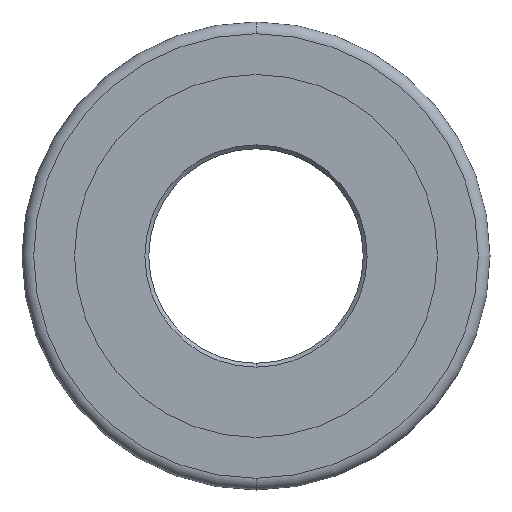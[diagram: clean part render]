
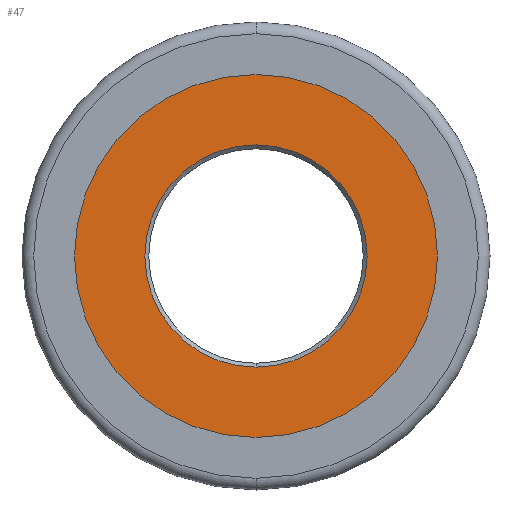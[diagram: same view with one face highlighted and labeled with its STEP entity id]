
A CAD part, front view. The second image highlights one B-rep face of the part: STEP entity #47.
In plain terms, the highlighted planar face has unit normal (0, -1, 0).
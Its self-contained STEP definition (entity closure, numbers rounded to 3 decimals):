
#9 = VERTEX_POINT ( 'NONE', #138 ) ;
#24 = CIRCLE ( 'NONE', #493, 28.5 ) ;
#26 = DIRECTION ( 'NONE',  ( 0., 0., 1. ) ) ;
#47 = ADVANCED_FACE ( 'NONE', ( #401, #212 ), #273, .F. ) ;
#48 = CARTESIAN_POINT ( 'NONE',  ( 0., -1.5, 0. ) ) ;
#64 = CARTESIAN_POINT ( 'NONE',  ( 0., -1.5, 46.529 ) ) ;
#67 = CARTESIAN_POINT ( 'NONE',  ( 0., -1.5, 0. ) ) ;
#72 = DIRECTION ( 'NONE',  ( 0., 1., 0. ) ) ;
#84 = CARTESIAN_POINT ( 'NONE',  ( 0., -1.5, -46.529 ) ) ;
#92 = VERTEX_POINT ( 'NONE', #84 ) ;
#111 = EDGE_LOOP ( 'NONE', ( #541, #255 ) ) ;
#112 = AXIS2_PLACEMENT_3D ( 'NONE', #67, #342, #26 ) ;
#124 = DIRECTION ( 'NONE',  ( 0., 0., 1. ) ) ;
#125 = VERTEX_POINT ( 'NONE', #264 ) ;
#126 = EDGE_CURVE ( 'NONE', #9, #125, #24, .T. ) ;
#128 = CIRCLE ( 'NONE', #486, 28.5 ) ;
#132 = DIRECTION ( 'NONE',  ( 0., 1., 0. ) ) ;
#138 = CARTESIAN_POINT ( 'NONE',  ( 0., -1.5, -28.5 ) ) ;
#153 = EDGE_CURVE ( 'NONE', #528, #92, #383, .T. ) ;
#160 = DIRECTION ( 'NONE',  ( 0., 0., 1. ) ) ;
#166 = CARTESIAN_POINT ( 'NONE',  ( 0., -1.5, 0. ) ) ;
#185 = EDGE_CURVE ( 'NONE', #125, #9, #128, .T. ) ;
#209 = CARTESIAN_POINT ( 'NONE',  ( 0., -1.5, 0. ) ) ;
#212 = FACE_OUTER_BOUND ( 'NONE', #476, .T. ) ;
#222 = DIRECTION ( 'NONE',  ( 0., 0., 1. ) ) ;
#250 = EDGE_CURVE ( 'NONE', #92, #528, #347, .T. ) ;
#255 = ORIENTED_EDGE ( 'NONE', *, *, #185, .T. ) ;
#264 = CARTESIAN_POINT ( 'NONE',  ( 0., -1.5, 28.5 ) ) ;
#273 = PLANE ( 'NONE',  #283 ) ;
#283 = AXIS2_PLACEMENT_3D ( 'NONE', #48, #132, #222 ) ;
#342 = DIRECTION ( 'NONE',  ( 0., 1., 0. ) ) ;
#347 = CIRCLE ( 'NONE', #112, 46.529 ) ;
#349 = DIRECTION ( 'NONE',  ( 0., 0., 1. ) ) ;
#383 = CIRCLE ( 'NONE', #469, 46.529 ) ;
#395 = CARTESIAN_POINT ( 'NONE',  ( 0., -1.5, 0. ) ) ;
#401 = FACE_BOUND ( 'NONE', #111, .T. ) ;
#435 = DIRECTION ( 'NONE',  ( 0., 1., 0. ) ) ;
#461 = ORIENTED_EDGE ( 'NONE', *, *, #153, .F. ) ;
#469 = AXIS2_PLACEMENT_3D ( 'NONE', #209, #478, #160 ) ;
#476 = EDGE_LOOP ( 'NONE', ( #572, #461 ) ) ;
#478 = DIRECTION ( 'NONE',  ( 0., 1., 0. ) ) ;
#486 = AXIS2_PLACEMENT_3D ( 'NONE', #395, #72, #349 ) ;
#493 = AXIS2_PLACEMENT_3D ( 'NONE', #166, #435, #124 ) ;
#528 = VERTEX_POINT ( 'NONE', #64 ) ;
#541 = ORIENTED_EDGE ( 'NONE', *, *, #126, .T. ) ;
#572 = ORIENTED_EDGE ( 'NONE', *, *, #250, .F. ) ;
